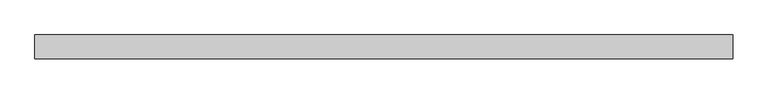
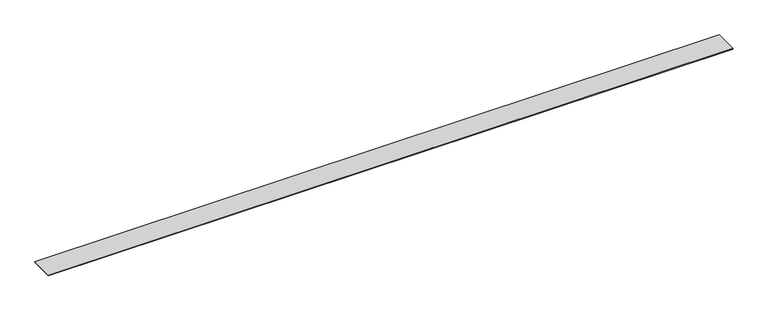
"""IFC4 building model written with IfcOpenShell, lengths in millimetres: furniture geometry, Geiger_GeigerOneCasegoods_WallTopTrimDoubleSidedWall : 108Wx3.75Dx0.125H."""

from ifc_helpers import new_model, si_unit, origin, origin_with_axes, place, context, project, spatial, polyline, outline, extrude, source, transform, mapped, element, save


def furniture_478bec58(model_context):
    return source(origin(), model_context, "Body", "SweptSolid", [
        extrude(outline(polyline([(2743.2, 46.99), (2743.2, -46.99), (0.0, -46.99), (0.0, 46.99), (2743.2, 46.99)])), origin_with_axes(), (0.0, 0.0, 1.0), 3.2004),
    ])


if __name__ == "__main__":
    model = new_model("IFC4")
    model_context = context("Model", 3, world=origin())
    ifc_project = project(units=[si_unit("LENGTHUNIT", "METRE", prefix="MILLI")], contexts=[model_context])
    site = spatial("IfcSite", under=ifc_project)
    building = spatial("IfcBuilding", under=site)
    placement = place(None, origin())
    furniture_shape = furniture_478bec58(model_context)
    element("IfcFurniture", 1, ObjectType="Geiger_GeigerOneCasegoods_WallTopTrimDoubleSidedWall : 108Wx3.75Dx0.125H", at=placement, inside=building, context=model_context, shape_type="MappedRepresentation", body=[
        mapped(furniture_shape, transform((0.0, 0.0, 0.0), x_axis=(1.0, 0.0, 0.0), y_axis=(0.0, 1.0, 0.0), z_axis=(0.0, 0.0, 1.0))),
    ])
    save(model, "model.ifc")
